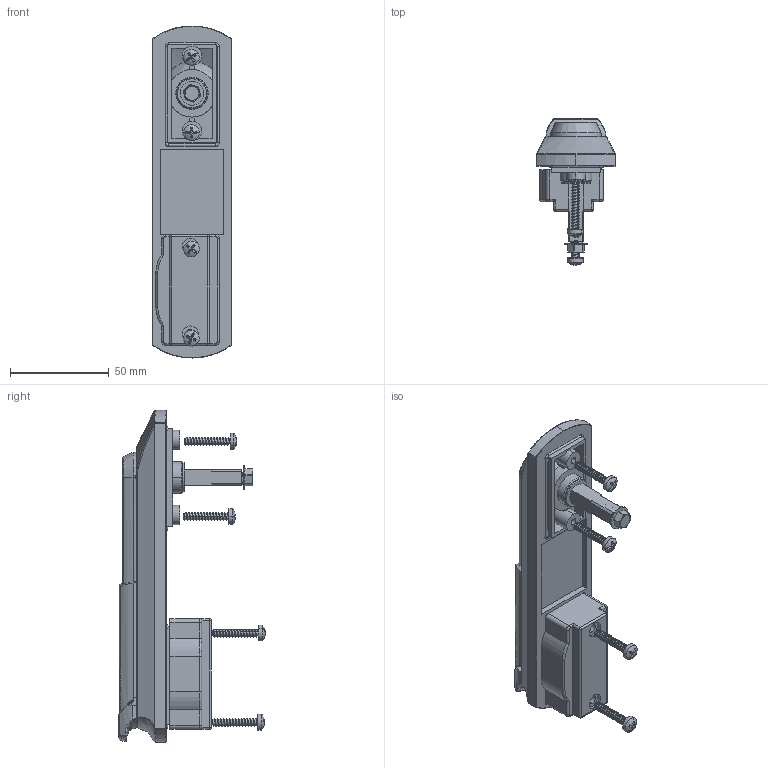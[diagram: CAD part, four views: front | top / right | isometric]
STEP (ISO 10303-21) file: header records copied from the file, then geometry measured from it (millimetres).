
FILE_DESCRIPTION (( 'STEP AP214' ), '1' );
FILE_NAME ('RS700.STEP', '2010-02-25T17:50:38', ( '£ukaszC' ), ( '' ), 'SwSTEP 2.0', 'SolidWorks 2008', '' );
FILE_SCHEMA (( 'AUTOMOTIVE_DESIGN' ));
Length unit declared in the file: millimetre
Products named in the file (13): M6 x 22_Domyœlna; O-RING 12x2_Domyœlna; 1B.RS100.01.04.00_Domyœlna; 1B.RS100.01.03.00_Domyœlna; 1B.RS300.01.05.00_Domyœlna; 1B.RS700.01.02.00_Domyœlna; 1B.RS700.01.01.00_Domyœlna; RS700; 1B.RS300.02.02.00_Domyœlna; 1B.RS700.01.07.00_Domyœlna; 1B.RS700.02.01.00; O-RING 42 x 1,5_Domyœlna; Wkrêt 4,1 x 23_Domyœlna
Assembly tree (16 placements, depth 2):
  RS700
    1B.RS700.01.01.00_Domyœlna
    1B.RS300.02.02.00_Domyœlna
    Wkrêt 4,1 x 23_Domyœlna  x4
    1B.RS300.01.05.00_Domyœlna
    1B.RS100.01.04.00_Domyœlna
    1B.RS700.01.07.00_Domyœlna
    1B.RS700.02.01.00
    O-RING 42 x 1,5_Domyœlna  x2
    M6 x 22_Domyœlna
    O-RING 12x2_Domyœlna
    1B.RS700.01.02.00_Domyœlna
    1B.RS100.01.03.00_Domyœlna
Bounding box: 40 x 74 x 167.69 mm (x, y, z)
Volume: 103981.9 mm3; surface area: 64320.8 mm2
Topology: 16 solids, 16 shells, 981 faces, 2583 edges, 1621 vertices
Faces by surface type: cylinder 403, plane 324, bspline 140, cone 57, torus 38, sphere 19
Entity records: 38930 total; most frequent: CARTESIAN_POINT 20788, ORIENTED_EDGE 3918, DIRECTION 3204, EDGE_CURVE 1959, VERTEX_POINT 1240, AXIS2_PLACEMENT_3D 1207, VECTOR 790, LINE 790
